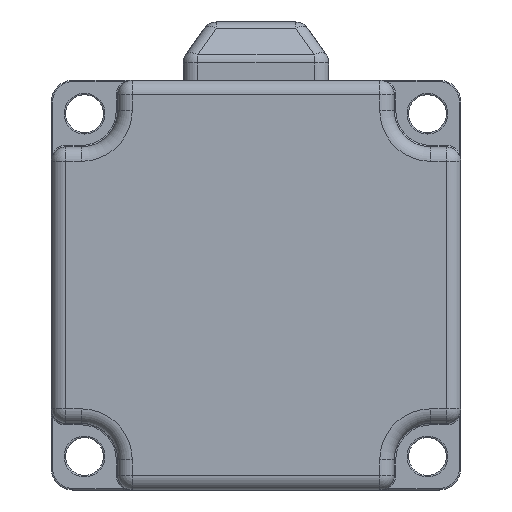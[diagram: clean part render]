
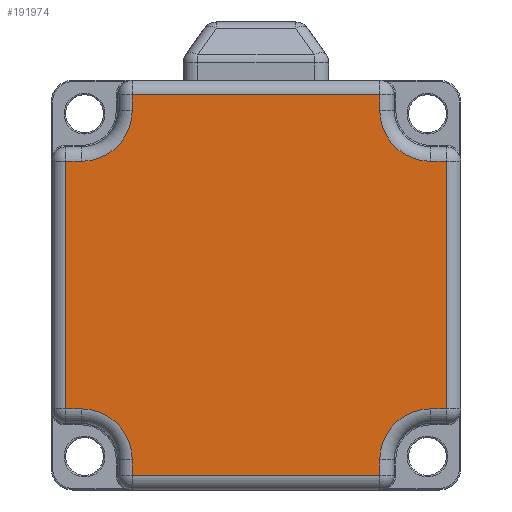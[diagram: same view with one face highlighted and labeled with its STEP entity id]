
A CAD part, front view. The second image highlights one B-rep face of the part: STEP entity #191974.
In plain terms, the highlighted planar face has unit normal (0, -1, 0).
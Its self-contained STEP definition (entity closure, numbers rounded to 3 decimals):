
#559 = VERTEX_POINT ( 'NONE', #128397 ) ;
#1009 = AXIS2_PLACEMENT_3D ( 'NONE', #220504, #219183, #239115 ) ;
#2323 = EDGE_CURVE ( 'NONE', #76321, #260142, #48760, .T. ) ;
#2456 = DIRECTION ( 'NONE',  ( -1., 0., 0. ) ) ;
#5591 = VECTOR ( 'NONE', #247052, 1000. ) ;
#5675 = VERTEX_POINT ( 'NONE', #7073 ) ;
#6519 = CARTESIAN_POINT ( 'NONE',  ( -17., -20., 0. ) ) ;
#7073 = CARTESIAN_POINT ( 'NONE',  ( 17., -20., -24. ) ) ;
#9935 = EDGE_CURVE ( 'NONE', #159568, #185200, #95988, .T. ) ;
#10585 = DIRECTION ( 'NONE',  ( 0., -1., 0. ) ) ;
#19998 = ORIENTED_EDGE ( 'NONE', *, *, #27269, .T. ) ;
#20964 = CARTESIAN_POINT ( 'NONE',  ( 0., -20., 26.15 ) ) ;
#22626 = EDGE_CURVE ( 'NONE', #559, #76321, #46244, .T. ) ;
#23004 = CARTESIAN_POINT ( 'NONE',  ( 17., -20., 26.15 ) ) ;
#24640 = ORIENTED_EDGE ( 'NONE', *, *, #70490, .T. ) ;
#27269 = EDGE_CURVE ( 'NONE', #261478, #113123, #97007, .T. ) ;
#28397 = EDGE_CURVE ( 'NONE', #178856, #159568, #153706, .T. ) ;
#29067 = CARTESIAN_POINT ( 'NONE',  ( 0., -20., 0. ) ) ;
#30564 = ORIENTED_EDGE ( 'NONE', *, *, #51670, .T. ) ;
#31714 = VECTOR ( 'NONE', #250228, 1000. ) ;
#32004 = AXIS2_PLACEMENT_3D ( 'NONE', #29067, #10585, #129693 ) ;
#34387 = ORIENTED_EDGE ( 'NONE', *, *, #9935, .T. ) ;
#34444 = DIRECTION ( 'NONE',  ( 1., 0., 0. ) ) ;
#35484 = ORIENTED_EDGE ( 'NONE', *, *, #146685, .T. ) ;
#38042 = VECTOR ( 'NONE', #55029, 1000. ) ;
#40788 = VECTOR ( 'NONE', #62044, 1000. ) ;
#41209 = ORIENTED_EDGE ( 'NONE', *, *, #78553, .T. ) ;
#42333 = ORIENTED_EDGE ( 'NONE', *, *, #194644, .T. ) ;
#44002 = ORIENTED_EDGE ( 'NONE', *, *, #178546, .T. ) ;
#46244 = CIRCLE ( 'NONE', #122370, 7. ) ;
#48760 = LINE ( 'NONE', #230399, #31714 ) ;
#51670 = EDGE_CURVE ( 'NONE', #113123, #5675, #73325, .T. ) ;
#55029 = DIRECTION ( 'NONE',  ( 1., 0., 0. ) ) ;
#57752 = ORIENTED_EDGE ( 'NONE', *, *, #71106, .T. ) ;
#57821 = DIRECTION ( 'NONE',  ( 0., 0., -1. ) ) ;
#62044 = DIRECTION ( 'NONE',  ( 0., 0., -1. ) ) ;
#62468 = VECTOR ( 'NONE', #65254, 1000. ) ;
#65254 = DIRECTION ( 'NONE',  ( 0., 0., -1. ) ) ;
#65707 = VECTOR ( 'NONE', #201677, 1000. ) ;
#66866 = LINE ( 'NONE', #85309, #5591 ) ;
#68305 = CARTESIAN_POINT ( 'NONE',  ( -17., -20., -26.15 ) ) ;
#70490 = EDGE_CURVE ( 'NONE', #141620, #192528, #74894, .T. ) ;
#71106 = EDGE_CURVE ( 'NONE', #185200, #254456, #219967, .T. ) ;
#73325 = LINE ( 'NONE', #118201, #144704 ) ;
#74894 = LINE ( 'NONE', #155588, #38042 ) ;
#75040 = VECTOR ( 'NONE', #34444, 1000. ) ;
#76321 = VERTEX_POINT ( 'NONE', #170674 ) ;
#76354 = CARTESIAN_POINT ( 'NONE',  ( -24., -20., 24. ) ) ;
#78553 = EDGE_CURVE ( 'NONE', #192528, #249437, #110235, .T. ) ;
#78821 = VECTOR ( 'NONE', #214091, 1000. ) ;
#80962 = VECTOR ( 'NONE', #243773, 1000. ) ;
#85309 = CARTESIAN_POINT ( 'NONE',  ( 17., -20., 28.15 ) ) ;
#86315 = CARTESIAN_POINT ( 'NONE',  ( 24., -20., -24. ) ) ;
#89206 = DIRECTION ( 'NONE',  ( 0., 0., -1. ) ) ;
#91264 = CARTESIAN_POINT ( 'NONE',  ( 26.15, -20., 17. ) ) ;
#93834 = CARTESIAN_POINT ( 'NONE',  ( 17., -20., 24. ) ) ;
#95988 = LINE ( 'NONE', #176727, #78821 ) ;
#97007 = LINE ( 'NONE', #161766, #65707 ) ;
#104946 = CARTESIAN_POINT ( 'NONE',  ( 24., -20., -17. ) ) ;
#110235 = CIRCLE ( 'NONE', #135433, 7. ) ;
#110874 = ORIENTED_EDGE ( 'NONE', *, *, #28397, .T. ) ;
#111795 = DIRECTION ( 'NONE',  ( 0., 1., 0. ) ) ;
#113123 = VERTEX_POINT ( 'NONE', #153864 ) ;
#113473 = ORIENTED_EDGE ( 'NONE', *, *, #138853, .T. ) ;
#118201 = CARTESIAN_POINT ( 'NONE',  ( 17., -20., 0. ) ) ;
#121455 = VERTEX_POINT ( 'NONE', #93834 ) ;
#122370 = AXIS2_PLACEMENT_3D ( 'NONE', #76354, #195541, #57821 ) ;
#125460 = LINE ( 'NONE', #183782, #40788 ) ;
#128397 = CARTESIAN_POINT ( 'NONE',  ( -17., -20., 24. ) ) ;
#128760 = CARTESIAN_POINT ( 'NONE',  ( 24., -20., 17. ) ) ;
#129693 = DIRECTION ( 'NONE',  ( 0., 0., -1. ) ) ;
#135433 = AXIS2_PLACEMENT_3D ( 'NONE', #211248, #111795, #89206 ) ;
#138853 = EDGE_CURVE ( 'NONE', #249437, #261478, #246738, .T. ) ;
#141548 = VECTOR ( 'NONE', #248956, 1000. ) ;
#141620 = VERTEX_POINT ( 'NONE', #219695 ) ;
#144704 = VECTOR ( 'NONE', #199060, 1000. ) ;
#146685 = EDGE_CURVE ( 'NONE', #260142, #141620, #125460, .T. ) ;
#148501 = DIRECTION ( 'NONE',  ( 0., 0., -1. ) ) ;
#153706 = LINE ( 'NONE', #216140, #75040 ) ;
#153864 = CARTESIAN_POINT ( 'NONE',  ( 17., -20., -26.15 ) ) ;
#155588 = CARTESIAN_POINT ( 'NONE',  ( 0., -20., -17. ) ) ;
#156939 = ORIENTED_EDGE ( 'NONE', *, *, #2323, .T. ) ;
#159568 = VERTEX_POINT ( 'NONE', #219463 ) ;
#161766 = CARTESIAN_POINT ( 'NONE',  ( 19., -20., -26.15 ) ) ;
#166504 = AXIS2_PLACEMENT_3D ( 'NONE', #86315, #225575, #148501 ) ;
#167984 = LINE ( 'NONE', #6519, #141548 ) ;
#170674 = CARTESIAN_POINT ( 'NONE',  ( -24., -20., 17. ) ) ;
#176499 = EDGE_CURVE ( 'NONE', #206161, #221621, #202529, .T. ) ;
#176727 = CARTESIAN_POINT ( 'NONE',  ( 26.15, -20., 0. ) ) ;
#178546 = EDGE_CURVE ( 'NONE', #121455, #206161, #66866, .T. ) ;
#178856 = VERTEX_POINT ( 'NONE', #104946 ) ;
#183782 = CARTESIAN_POINT ( 'NONE',  ( -26.15, -20., -19. ) ) ;
#184133 = ORIENTED_EDGE ( 'NONE', *, *, #176499, .T. ) ;
#185200 = VERTEX_POINT ( 'NONE', #91264 ) ;
#189575 = CARTESIAN_POINT ( 'NONE',  ( -17., -20., -28.15 ) ) ;
#191373 = CIRCLE ( 'NONE', #1009, 7. ) ;
#191974 = ADVANCED_FACE ( 'NONE', ( #214649 ), #230627, .T. ) ;
#192528 = VERTEX_POINT ( 'NONE', #247914 ) ;
#194644 = EDGE_CURVE ( 'NONE', #5675, #178856, #221669, .T. ) ;
#195541 = DIRECTION ( 'NONE',  ( 0., 1., 0. ) ) ;
#195903 = ORIENTED_EDGE ( 'NONE', *, *, #257626, .T. ) ;
#199060 = DIRECTION ( 'NONE',  ( 0., 0., 1. ) ) ;
#201090 = CARTESIAN_POINT ( 'NONE',  ( -26.15, -20., 17. ) ) ;
#201677 = DIRECTION ( 'NONE',  ( 1., 0., 0. ) ) ;
#202529 = LINE ( 'NONE', #20964, #249946 ) ;
#203463 = ORIENTED_EDGE ( 'NONE', *, *, #22626, .T. ) ;
#206161 = VERTEX_POINT ( 'NONE', #23004 ) ;
#211248 = CARTESIAN_POINT ( 'NONE',  ( -24., -20., -24. ) ) ;
#214091 = DIRECTION ( 'NONE',  ( 0., 0., 1. ) ) ;
#214649 = FACE_OUTER_BOUND ( 'NONE', #230901, .T. ) ;
#216140 = CARTESIAN_POINT ( 'NONE',  ( 28.15, -20., -17. ) ) ;
#218664 = CARTESIAN_POINT ( 'NONE',  ( 0., -20., 17. ) ) ;
#219183 = DIRECTION ( 'NONE',  ( 0., 1., 0. ) ) ;
#219463 = CARTESIAN_POINT ( 'NONE',  ( 26.15, -20., -17. ) ) ;
#219695 = CARTESIAN_POINT ( 'NONE',  ( -26.15, -20., -17. ) ) ;
#219967 = LINE ( 'NONE', #218664, #80962 ) ;
#220504 = CARTESIAN_POINT ( 'NONE',  ( 24., -20., 24. ) ) ;
#221621 = VERTEX_POINT ( 'NONE', #259948 ) ;
#221669 = CIRCLE ( 'NONE', #166504, 7. ) ;
#225575 = DIRECTION ( 'NONE',  ( 0., 1., 0. ) ) ;
#230399 = CARTESIAN_POINT ( 'NONE',  ( -28.15, -20., 17. ) ) ;
#230627 = PLANE ( 'NONE',  #32004 ) ;
#230901 = EDGE_LOOP ( 'NONE', ( #113473, #19998, #30564, #42333, #110874, #34387, #57752, #248032, #44002, #184133, #195903, #203463, #156939, #35484, #24640, #41209 ) ) ;
#239115 = DIRECTION ( 'NONE',  ( 0., 0., -1. ) ) ;
#239797 = CARTESIAN_POINT ( 'NONE',  ( -17., -20., -24. ) ) ;
#241606 = EDGE_CURVE ( 'NONE', #254456, #121455, #191373, .T. ) ;
#243773 = DIRECTION ( 'NONE',  ( -1., 0., 0. ) ) ;
#246738 = LINE ( 'NONE', #189575, #62468 ) ;
#247052 = DIRECTION ( 'NONE',  ( 0., 0., 1. ) ) ;
#247914 = CARTESIAN_POINT ( 'NONE',  ( -24., -20., -17. ) ) ;
#248032 = ORIENTED_EDGE ( 'NONE', *, *, #241606, .T. ) ;
#248956 = DIRECTION ( 'NONE',  ( 0., 0., -1. ) ) ;
#249437 = VERTEX_POINT ( 'NONE', #239797 ) ;
#249946 = VECTOR ( 'NONE', #2456, 1000. ) ;
#250228 = DIRECTION ( 'NONE',  ( -1., 0., 0. ) ) ;
#254456 = VERTEX_POINT ( 'NONE', #128760 ) ;
#257626 = EDGE_CURVE ( 'NONE', #221621, #559, #167984, .T. ) ;
#259948 = CARTESIAN_POINT ( 'NONE',  ( -17., -20., 26.15 ) ) ;
#260142 = VERTEX_POINT ( 'NONE', #201090 ) ;
#261478 = VERTEX_POINT ( 'NONE', #68305 ) ;
